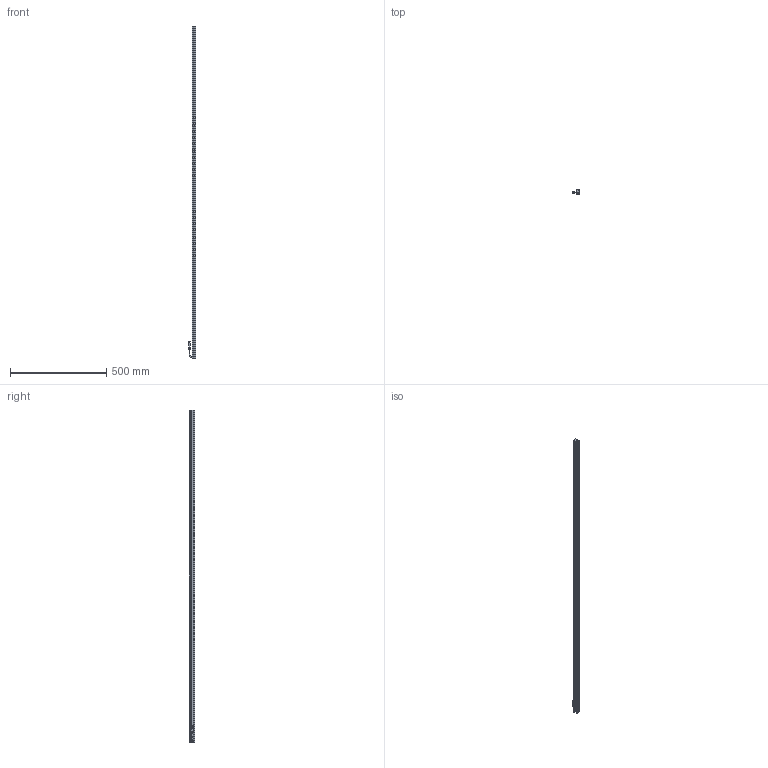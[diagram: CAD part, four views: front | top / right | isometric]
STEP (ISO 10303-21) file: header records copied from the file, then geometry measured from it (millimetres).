
FILE_DESCRIPTION (( 'STEP AP203' ), '1' );
FILE_NAME ('CK-BL172218.STEP', '2025-12-27T02:29:06', ( '' ), ( '' ), 'SwSTEP 2.0', 'SolidWorks 2022', '' );
FILE_SCHEMA (( 'CONFIG_CONTROL_DESIGN' ));
Length unit declared in the file: millimetre
Products named in the file (6): CK-BL172218-001A; CK-BL172218-003A; CK-BL172218-002A; 光源线-01; 十字沉头螺丝 M2x10; CK-BL172218
Assembly tree (9 placements, depth 2):
  CK-BL172218
    CK-BL172218-001A
    CK-BL172218-002A  x2
    CK-BL172218-003A
    光源线-01
    十字沉头螺丝 M2x10  x4
Bounding box: 37.34 x 27 x 1722 mm (x, y, z)
Volume: 377356 mm3; surface area: 372643.1 mm2
Topology: 11 solids, 11 shells, 474 faces, 1231 edges, 780 vertices
Faces by surface type: plane 271, cylinder 149, cone 34, bspline 20
Entity records: 12442 total; most frequent: CARTESIAN_POINT 2514, ORIENTED_EDGE 1936, DIRECTION 1916, EDGE_CURVE 968, LINE 668, VECTOR 668, VERTEX_POINT 626, AXIS2_PLACEMENT_3D 624
